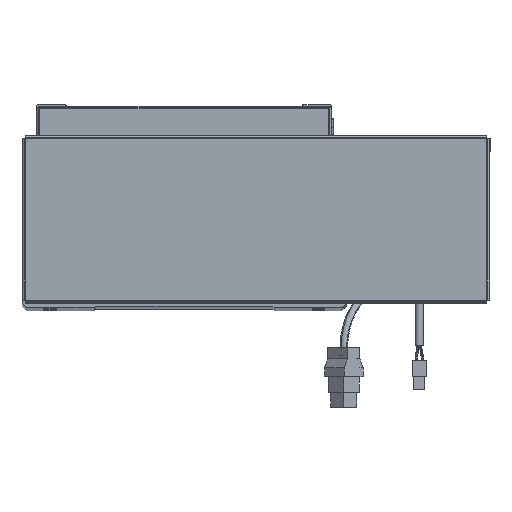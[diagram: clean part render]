
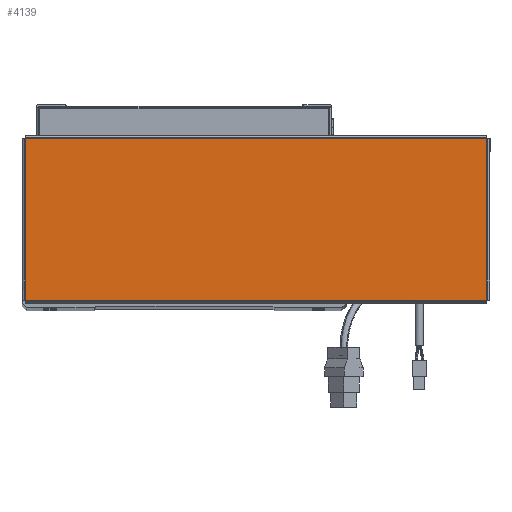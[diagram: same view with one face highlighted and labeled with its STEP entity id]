
A CAD part, top view. The second image highlights one B-rep face of the part: STEP entity #4139.
In plain terms, the highlighted planar face has unit normal (0, 0, 1).
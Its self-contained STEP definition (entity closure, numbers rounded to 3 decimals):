
#479 = EDGE_CURVE ( 'NONE', #58425, #60786, #31323, .T. ) ;
#1445 = CARTESIAN_POINT ( 'NONE',  ( 156.513, -54.793, 0. ) ) ;
#3648 = ORIENTED_EDGE ( 'NONE', *, *, #21250, .T. ) ;
#4139 = ADVANCED_FACE ( 'NONE', ( #51794 ), #25484, .T. ) ;
#5064 = DIRECTION ( 'NONE',  ( 1., 0., 0. ) ) ;
#8102 = CARTESIAN_POINT ( 'NONE',  ( -156.513, 54.763, 0. ) ) ;
#11220 = VECTOR ( 'NONE', #30853, 1000. ) ;
#16455 = VERTEX_POINT ( 'NONE', #61190 ) ;
#17122 = DIRECTION ( 'NONE',  ( 0., -1., 0. ) ) ;
#19126 = CARTESIAN_POINT ( 'NONE',  ( 156.513, 54.763, 0. ) ) ;
#19936 = VECTOR ( 'NONE', #42022, 1000. ) ;
#21250 = EDGE_CURVE ( 'NONE', #60786, #16455, #50566, .T. ) ;
#24231 = ORIENTED_EDGE ( 'NONE', *, *, #34706, .T. ) ;
#24662 = ORIENTED_EDGE ( 'NONE', *, *, #479, .T. ) ;
#25484 = PLANE ( 'NONE',  #55174 ) ;
#27201 = VERTEX_POINT ( 'NONE', #64213 ) ;
#30636 = DIRECTION ( 'NONE',  ( 0., 0., 1. ) ) ;
#30853 = DIRECTION ( 'NONE',  ( -1., 0., 0. ) ) ;
#31323 = LINE ( 'NONE', #32928, #11220 ) ;
#32432 = DIRECTION ( 'NONE',  ( 0., 1., 0. ) ) ;
#32928 = CARTESIAN_POINT ( 'NONE',  ( 156.543, 54.763, 0. ) ) ;
#34512 = LINE ( 'NONE', #1445, #44966 ) ;
#34706 = EDGE_CURVE ( 'NONE', #16455, #27201, #36799, .T. ) ;
#36799 = LINE ( 'NONE', #46719, #19936 ) ;
#37554 = EDGE_LOOP ( 'NONE', ( #24231, #56975, #24662, #3648 ) ) ;
#37834 = EDGE_CURVE ( 'NONE', #27201, #58425, #34512, .T. ) ;
#42022 = DIRECTION ( 'NONE',  ( 1., 0., 0. ) ) ;
#44966 = VECTOR ( 'NONE', #32432, 1000. ) ;
#46719 = CARTESIAN_POINT ( 'NONE',  ( -156.543, -54.763, 0. ) ) ;
#47895 = CARTESIAN_POINT ( 'NONE',  ( -156.513, 54.793, 0. ) ) ;
#50566 = LINE ( 'NONE', #47895, #63449 ) ;
#51794 = FACE_OUTER_BOUND ( 'NONE', #37554, .T. ) ;
#55174 = AXIS2_PLACEMENT_3D ( 'NONE', #61504, #30636, #5064 ) ;
#56975 = ORIENTED_EDGE ( 'NONE', *, *, #37834, .T. ) ;
#58425 = VERTEX_POINT ( 'NONE', #19126 ) ;
#60786 = VERTEX_POINT ( 'NONE', #8102 ) ;
#61190 = CARTESIAN_POINT ( 'NONE',  ( -156.513, -54.763, 0. ) ) ;
#61504 = CARTESIAN_POINT ( 'NONE',  ( 0., 0., 0. ) ) ;
#63449 = VECTOR ( 'NONE', #17122, 1000. ) ;
#64213 = CARTESIAN_POINT ( 'NONE',  ( 156.513, -54.763, 0. ) ) ;
